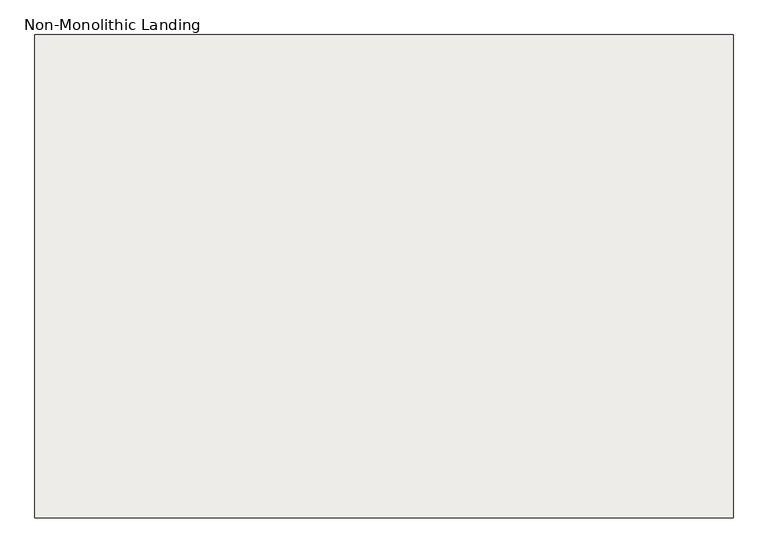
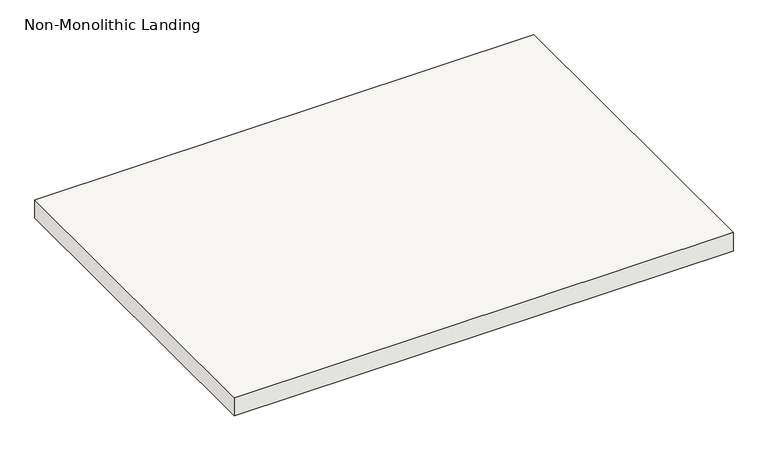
"""IFC4 building model written with IfcOpenShell, lengths in millimetres: slab geometry, Non-Monolithic Landing."""

from ifc_helpers import new_model, si_unit, frame, origin, place, context, project, spatial, polyline, outline, extrude, source, transform, mapped, element, save


def non_monolithic_landing_d71ae8cf(model_context):
    return source(origin(), model_context, "Body", "SweptSolid", [
        extrude(outline(polyline([(49950.7241768, 44245.3361774), (51271.5241768, 44245.3361774), (51271.5241768, 43330.9361774), (49950.7241768, 43330.9361774), (49950.7241768, 44245.3361774)])), frame((0.0, 0.0, 2126.3428571), z_axis=(0.0, 0.0, 1.0), x_axis=(1.0, 0.0, 0.0)), (0.0, 0.0, 1.0), 50.8),
    ])


if __name__ == "__main__":
    model = new_model("IFC4")
    model_context = context("Model", 3, world=origin())
    ifc_project = project(units=[si_unit("LENGTHUNIT", "METRE", prefix="MILLI")], contexts=[model_context])
    site = spatial("IfcSite", under=ifc_project)
    building = spatial("IfcBuilding", under=site)
    placement = place(None, origin())
    non_monolithic_landing_shape = non_monolithic_landing_d71ae8cf(model_context)
    element("IfcSlab", 1, ObjectType="Non-Monolithic Landing", at=placement, inside=building, context=model_context, shape_type="MappedRepresentation", body=[
        mapped(non_monolithic_landing_shape, transform((0.0, 0.0, 0.0), x_axis=(1.0, 0.0, 0.0), y_axis=(0.0, 1.0, 0.0), z_axis=(0.0, 0.0, 1.0))),
    ])
    save(model, "model.ifc")
